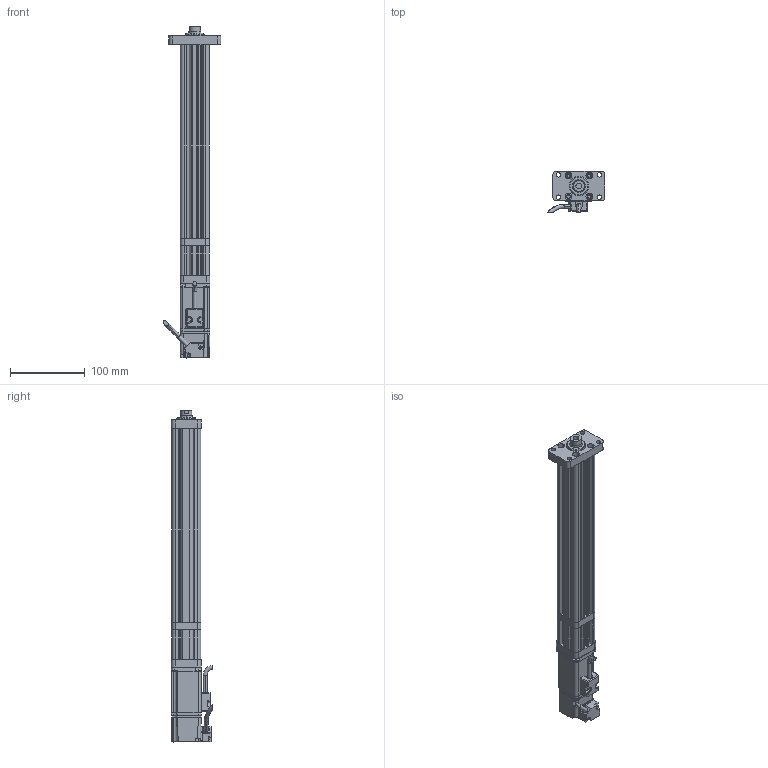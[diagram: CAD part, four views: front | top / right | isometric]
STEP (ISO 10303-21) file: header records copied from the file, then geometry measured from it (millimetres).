
FILE_DESCRIPTION (( 'STEP AP214' ), '1' );
FILE_NAME ('039-S200-D02-A-M3-C2-2.STEP', '2021-03-02T05:29:09', ( '' ), ( '' ), 'SwSTEP 2.0', 'SolidWorks 2018', '' );
FILE_SCHEMA (( 'AUTOMOTIVE_DESIGN' ));
Length unit declared in the file: millimetre
Products named in the file (8): CMC039-GT; CMC039-DJZ; 039-S200-D02-A-M3-C2-2; ECMA-CX0401ES-40框號系列機種-100W低慣量系列; CMC039-AZB; CMC039-DT; CMC039-FL1; CMC039-ZLLJB
Assembly tree (7 placements, depth 2):
  039-S200-D02-A-M3-C2-2
    CMC039-GT
    CMC039-DT
    CMC039-ZLLJB
    CMC039-DJZ
    ECMA-CX0401ES-40框號系列機種-100W低慣量系列
    CMC039-AZB
    CMC039-FL1
Bounding box: 77.83 x 55.39 x 445.6 mm (x, y, z)
Volume: 475258.2 mm3; surface area: 153798.1 mm2
Topology: 7 solids, 15 shells, 713 faces, 1880 edges, 1181 vertices
Faces by surface type: cylinder 298, plane 292, bspline 84, cone 39
Entity records: 28208 total; most frequent: CARTESIAN_POINT 11266, ORIENTED_EDGE 3694, DIRECTION 3033, EDGE_CURVE 1847, VERTEX_POINT 1181, AXIS2_PLACEMENT_3D 1035, LINE 963, VECTOR 963
